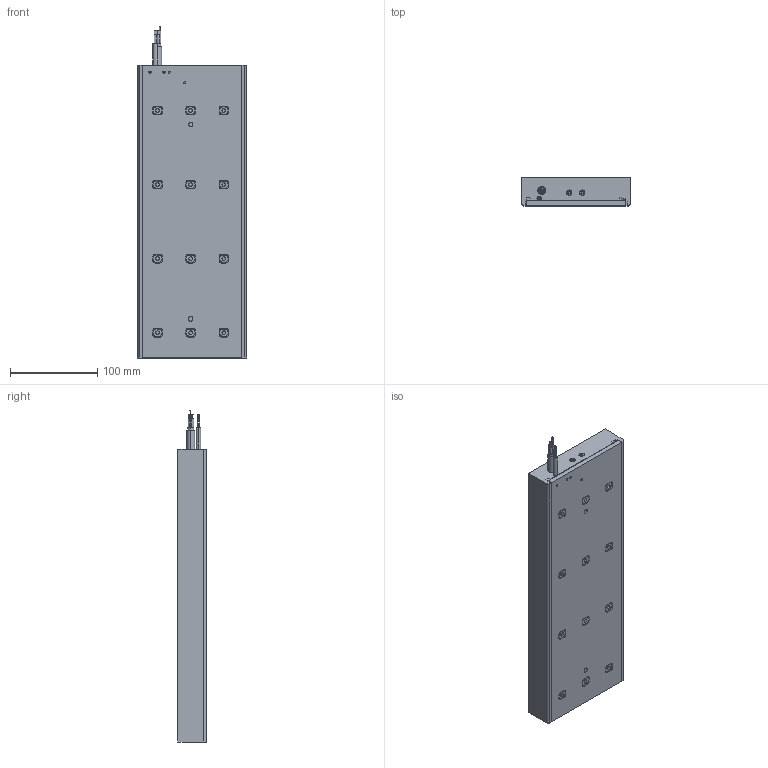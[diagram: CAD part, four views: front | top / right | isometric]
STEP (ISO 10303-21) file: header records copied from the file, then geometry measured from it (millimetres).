
FILE_DESCRIPTION (( 'STEP AP203' ), '1' );
FILE_NAME ('IC18-124 3D.STEP', '2020-10-08T14:24:25', ( '' ), ( '' ), 'SwSTEP 2.0', 'SolidWorks 2018', '' );
FILE_SCHEMA (( 'CONFIG_CONTROL_DESIGN' ));
Length unit declared in the file: millimetre
Products named in the file (7): sensor cable 3D; IC18-124 housing; IC18-124 resin; M3 nut hall module for 3D CU; power cable 3D; IC18-124 3D; IC-124 dovetail rounded
Assembly tree (10 placements, depth 2):
  IC18-124 3D
    IC18-124 housing
    IC18-124 resin
    M3 nut hall module for 3D CU  x2
    IC-124 dovetail rounded  x4
    power cable 3D
    sensor cable 3D
Bounding box: 125.15 x 32.4 x 381 mm (x, y, z)
Volume: 1377701.5 mm3; surface area: 222484.9 mm2
Topology: 10 solids, 10 shells, 652 faces, 1782 edges, 1155 vertices
Faces by surface type: plane 312, cylinder 302, torus 26, sphere 12
Entity records: 13870 total; most frequent: DIRECTION 2339, CARTESIAN_POINT 2297, ORIENTED_EDGE 2208, EDGE_CURVE 1104, AXIS2_PLACEMENT_3D 829, VERTEX_POINT 723, LINE 681, VECTOR 681
